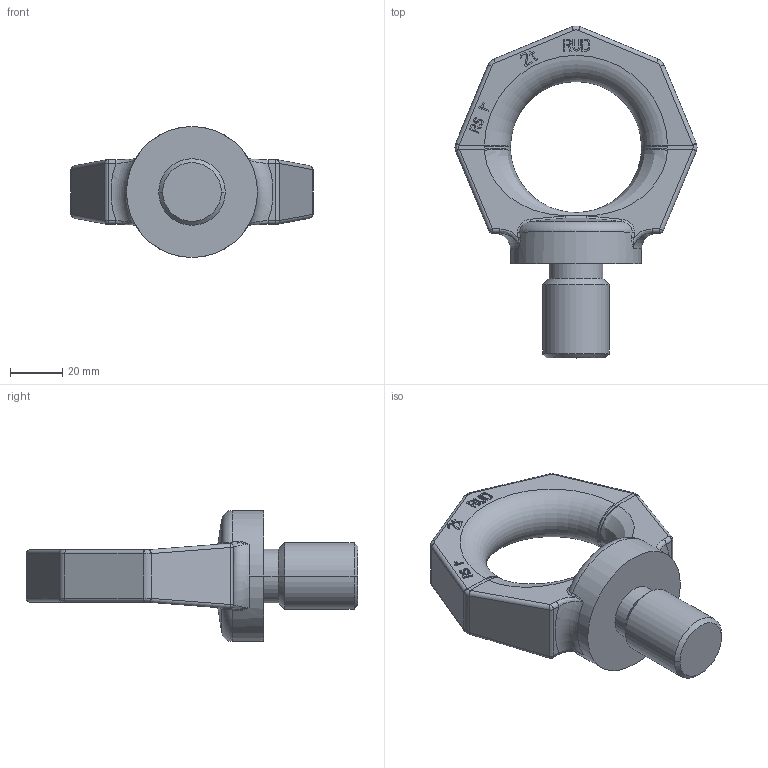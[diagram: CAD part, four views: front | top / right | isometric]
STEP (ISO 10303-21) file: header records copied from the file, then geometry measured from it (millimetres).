
FILE_DESCRIPTION((''),'2;1');
FILE_NAME('001-M31077-X11_ASM','2005-01-11T',('jakubetz'),(''),'PRO/ENGINEER BY PARAMETRIC TECHNOLOGY CORPORATION, 2001400','PRO/ENGINEER BY PARAMETRIC TECHNOLOGY CORPORATION, 2001400','');
FILE_SCHEMA(('CONFIG_CONTROL_DESIGN'));
Length unit declared in the file: millimetre
Products named in the file (3): 001-M31077-X11; 001-M31077-Y11; 001-M31077-X11_ASM
Assembly tree (2 placements, depth 2):
  001-M31077-X11_ASM
    001-M31077-X11
    001-M31077-Y11
Bounding box: 92.43 x 126.7 x 50 mm (x, y, z)
Volume: 117038.5 mm3; surface area: 22333.2 mm2
Topology: 2 solids, 2 shells, 355 faces, 936 edges, 596 vertices
Faces by surface type: plane 250, bspline 44, cylinder 36, torus 15, cone 6, sphere 4
Entity records: 13186 total; most frequent: CARTESIAN_POINT 4623, ORIENTED_EDGE 1872, DIRECTION 1582, EDGE_CURVE 936, VECTOR 726, LINE 726, VERTEX_POINT 596, AXIS2_PLACEMENT_3D 428
